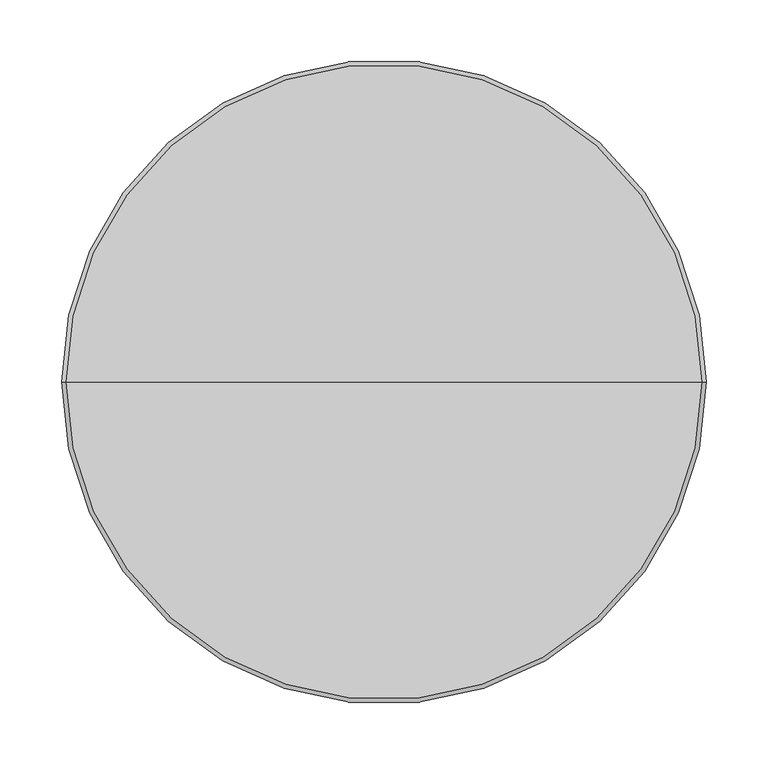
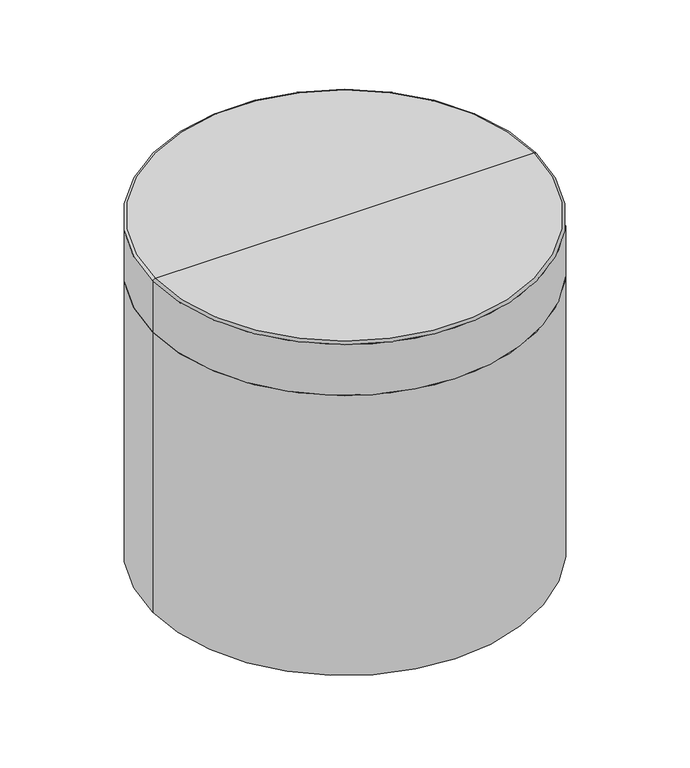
"""IFC4 building model written with IfcOpenShell, lengths in millimetres: furniture geometry, StanceHC-Drum_Table : 3-DRT20D20-U."""

from ifc_helpers import new_model, si_unit, point, frame, frame_2d, origin, origin_with_axes, place, context, project, spatial, circle_curve, ellipse_curve, trimmed, segment, composite_curve, outline, extrude, source, transform, mapped, element, save
from ifc_brep_helpers import plane_surface, cylinder_surface, revolved_surface, advanced_brep


def furniture_b5dab5b0(model_context):
    return source(origin(), model_context, "Body", "SolidModel", [
        extrude(outline(composite_curve([segment(trimmed(circle_curve(frame_2d((0.0, 199.3164845)), 12.7), [point((-12.7, 199.3164845))], [point((12.7, 199.3164845))], False, "CARTESIAN"), True, "CONTINUOUS"), segment(trimmed(circle_curve(frame_2d((0.0, 199.3164845)), 12.7), [point((12.7, 199.3164845))], [point((-12.7, 199.3164845))], False, "CARTESIAN"), True, "CONTINUOUS")], self_intersect=False)), origin_with_axes(), (0.0, 0.0, 1.0), 4.7625),
        extrude(outline(composite_curve([segment(trimmed(circle_curve(frame_2d((0.0, -199.3164845)), 12.7), [point((-12.7, -199.3164845))], [point((12.7, -199.3164845))], False, "CARTESIAN"), True, "CONTINUOUS"), segment(trimmed(circle_curve(frame_2d((0.0, -199.3164845)), 12.7), [point((12.7, -199.3164845))], [point((-12.7, -199.3164845))], False, "CARTESIAN"), True, "CONTINUOUS")], self_intersect=False)), origin_with_axes(), (0.0, 0.0, 1.0), 4.7625),
        extrude(outline(composite_curve([segment(trimmed(circle_curve(frame_2d((203.1996404, 0.0)), 12.7), [point((190.4996404, 0.0))], [point((215.8996404, 0.0))], False, "CARTESIAN"), True, "CONTINUOUS"), segment(trimmed(circle_curve(frame_2d((203.1996404, 0.0)), 12.7), [point((215.8996404, 0.0))], [point((190.4996404, 0.0))], False, "CARTESIAN"), True, "CONTINUOUS")], self_intersect=False)), origin_with_axes(), (0.0, 0.0, 1.0), 4.7625),
        extrude(outline(composite_curve([segment(trimmed(circle_curve(frame_2d((-203.1996404, 0.0)), 12.7), [point((-215.8996404, 0.0))], [point((-190.4996404, 0.0))], False, "CARTESIAN"), True, "CONTINUOUS"), segment(trimmed(circle_curve(frame_2d((-203.1996404, 0.0)), 12.7), [point((-190.4996404, 0.0))], [point((-215.8996404, 0.0))], False, "CARTESIAN"), True, "CONTINUOUS")], self_intersect=False)), origin_with_axes(), (0.0, 0.0, 1.0), 4.7625),
        advanced_brep(
        [(0.0, 0.0, 406.4), (260.35, 0.0, 406.4), (-260.35, 0.0, 406.4), (-260.35, 0.0, 4.7625), (260.35, 0.0, 4.7625), (0.0, 0.0, 4.7625)],
        [
            (0, 1),
            (1, 2, circle_curve(frame((0.0, 0.0, 406.4), z_axis=(0.0, 0.0, 1.0), x_axis=(1.0, 0.0, 0.0)), 260.35)),
            (2, 0),
            (2, 1, circle_curve(frame((0.0, 0.0, 406.4), z_axis=(0.0, 0.0, 1.0), x_axis=(1.0, 0.0, 0.0)), 260.35)),
            (3, 4, circle_curve(frame((0.0, 0.0, 4.7625), z_axis=(0.0, 0.0, -1.0), x_axis=(1.0, 0.0, 0.0)), 260.35)),
            (4, 5),
            (5, 3),
            (4, 3, circle_curve(frame((0.0, 0.0, 4.7625), z_axis=(0.0, 0.0, -1.0), x_axis=(1.0, 0.0, 0.0)), 260.35)),
            (1, 4),
            (3, 2),
        ],
        [
            plane_surface(frame((0.0, 0.0, 406.4), z_axis=(0.0, 0.0, 1.0), x_axis=(1.0, 0.0, 0.0))),
            plane_surface(frame((0.0, 0.0, 4.7625), z_axis=(0.0, 0.0, -1.0), x_axis=(1.0, 0.0, 0.0))),
            cylinder_surface(frame((0.0, 0.0, 558.8), z_axis=(0.0, 0.0, 1.0), x_axis=(1.0, 0.0, 0.0)), 260.35),
        ],
        [
            (0, [[1, 2, 3]]),
            (0, [[-3, 4, -1]]),
            (1, [[5, 6, 7]]),
            (1, [[8, -7, -6]]),
            (2, [[-2, 9, -5, 10]]),
            (2, [[-4, -10, -8, -9]]),
        ],
    ),
        advanced_brep(
        [(-260.35, 0.0, 406.4), (260.35, 0.0, 406.4), (0.0, 0.0, 406.4), (-260.35, 0.0, 479.4764933), (260.35, 0.0, 479.4764933), (-257.2264933, 0.0, 482.6), (257.2264933, 0.0, 482.6), (0.0, 0.0, 482.6)],
        [
            (0, 1, circle_curve(frame((0.0, 0.0, 406.4), z_axis=(0.0, 0.0, -1.0), x_axis=(1.0, 0.0, 0.0)), 260.35)),
            (1, 2),
            (2, 0),
            (1, 0, circle_curve(frame((0.0, 0.0, 406.4), z_axis=(0.0, 0.0, -1.0), x_axis=(1.0, 0.0, 0.0)), 260.35)),
            (3, 4, circle_curve(frame((0.0, 0.0, 479.4764933), z_axis=(0.0, 0.0, -1.0), x_axis=(1.0, 0.0, 0.0)), 260.35)),
            (4, 1),
            (0, 3),
            (4, 3, circle_curve(frame((0.0, 0.0, 479.4764933), z_axis=(0.0, 0.0, -1.0), x_axis=(1.0, 0.0, 0.0)), 260.35)),
            (5, 6, circle_curve(frame((0.0, 0.0, 482.6), z_axis=(0.0, 0.0, -1.0), x_axis=(1.0, 0.0, 0.0)), 257.2264933)),
            (6, 4, circle_curve(frame((257.2264933, 0.0, 479.4764933), z_axis=(0.0, 1.0, 0.0), x_axis=(1.0, 0.0, 0.0)), 3.1235067)),
            (3, 5, circle_curve(frame((-257.2264933, 0.0, 479.4764933), z_axis=(0.0, 1.0, 0.0), x_axis=(-1.0, 0.0, 0.0)), 3.1235067)),
            (6, 5, circle_curve(frame((0.0, 0.0, 482.6), z_axis=(0.0, 0.0, -1.0), x_axis=(1.0, 0.0, 0.0)), 257.2264933)),
            (7, 6),
            (5, 7),
        ],
        [
            plane_surface(frame((0.0, 0.0, 406.4), z_axis=(0.0, 0.0, -1.0), x_axis=(1.0, 0.0, 0.0))),
            cylinder_surface(frame((0.0, 0.0, 577.85), z_axis=(0.0, 0.0, 1.0), x_axis=(1.0, 0.0, 0.0)), 260.35),
            revolved_surface(trimmed(ellipse_curve(frame((257.2264933, 0.0, 479.4764933), z_axis=(0.0, -1.0, 0.0), x_axis=(1.0, 0.0, 0.0)), 3.1235067, 3.1235067), [point((260.35, 0.0, 479.4764933))], [point((257.2264933, 0.0, 482.6))], True, "CARTESIAN"), (0.0, 0.0, 577.85), (0.0, 0.0, 1.0)),
            plane_surface(frame((0.0, 0.0, 482.6), z_axis=(0.0, 0.0, 1.0), x_axis=(1.0, 0.0, 0.0))),
        ],
        [
            (0, [[1, 2, 3]]),
            (0, [[4, -3, -2]]),
            (1, [[5, 6, -1, 7]]),
            (1, [[8, -7, -4, -6]]),
            (2, [[9, 10, -5, 11]]),
            (2, [[12, -11, -8, -10]]),
            (3, [[13, -9, 14]]),
            (3, [[-14, -12, -13]]),
        ],
    ),
    ])


if __name__ == "__main__":
    model = new_model("IFC4")
    model_context = context("Model", 3, world=origin())
    ifc_project = project(units=[si_unit("LENGTHUNIT", "METRE", prefix="MILLI")], contexts=[model_context])
    site = spatial("IfcSite", under=ifc_project)
    building = spatial("IfcBuilding", under=site)
    placement = place(None, origin())
    furniture_shape = furniture_b5dab5b0(model_context)
    element("IfcFurniture", 1, ObjectType="StanceHC-Drum_Table : 3-DRT20D20-U", at=placement, inside=building, context=model_context, shape_type="MappedRepresentation", body=[
        mapped(furniture_shape, transform((0.0, 0.0, 0.0), x_axis=(1.0, 0.0, 0.0), y_axis=(0.0, 1.0, 0.0), z_axis=(0.0, 0.0, 1.0))),
    ])
    save(model, "model.ifc")
